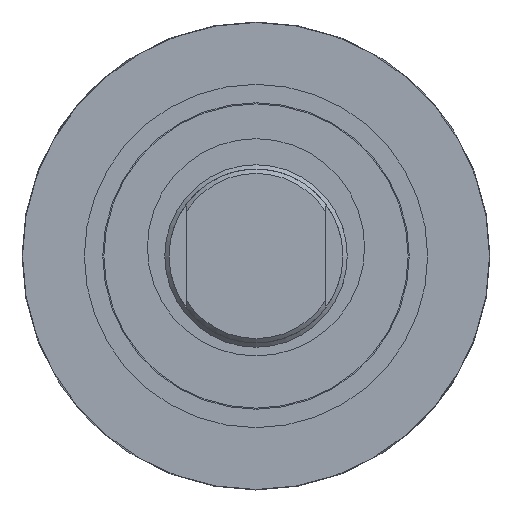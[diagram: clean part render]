
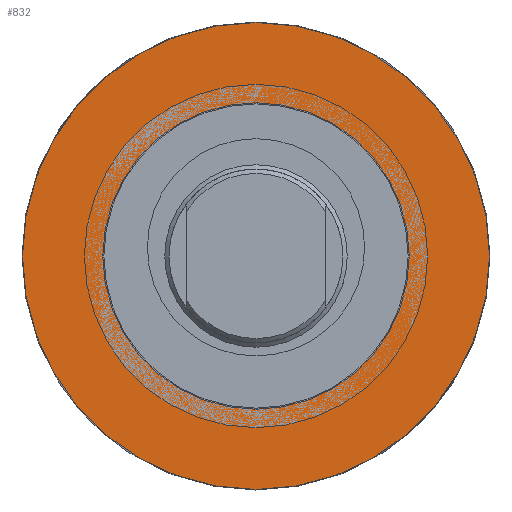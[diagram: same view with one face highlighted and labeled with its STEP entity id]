
A CAD part, left-side view. The second image highlights one B-rep face of the part: STEP entity #832.
In plain terms, the highlighted planar face has unit normal (-1, 0, 0).
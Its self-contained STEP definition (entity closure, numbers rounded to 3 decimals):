
#150=FACE_OUTER_BOUND('',#206,.T.);
#206=EDGE_LOOP('',(#608));
#268=CIRCLE('',#940,53.73);
#349=VERTEX_POINT('',#1480);
#445=EDGE_CURVE('',#349,#349,#268,.T.);
#608=ORIENTED_EDGE('',*,*,#445,.T.);
#732=PLANE('',#939);
#832=ADVANCED_FACE('',(#150),#732,.T.);
#939=AXIS2_PLACEMENT_3D('',#1479,#1133,#1134);
#940=AXIS2_PLACEMENT_3D('',#1481,#1135,#1136);
#1133=DIRECTION('center_axis',(-1.,0.,0.));
#1134=DIRECTION('ref_axis',(0.,0.,-1.));
#1135=DIRECTION('center_axis',(-1.,0.,0.));
#1136=DIRECTION('ref_axis',(0.,0.,1.));
#1479=CARTESIAN_POINT('Origin',(96.8,-49.615,0.));
#1480=CARTESIAN_POINT('',(96.8,-3.,-53.73));
#1481=CARTESIAN_POINT('Origin',(96.8,-3.,0.));
